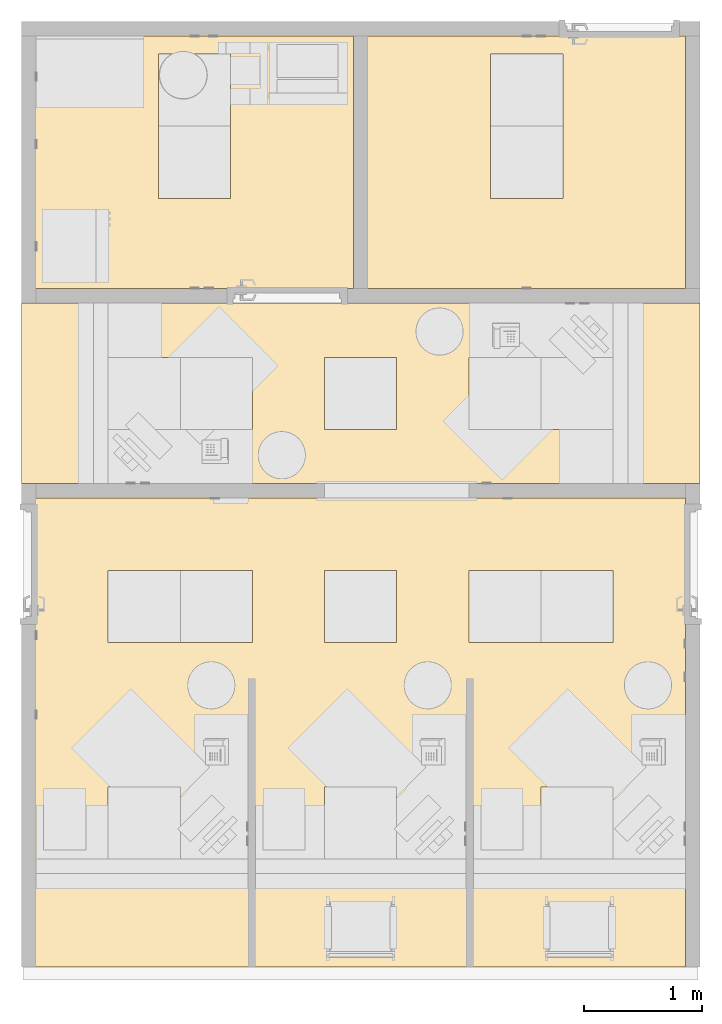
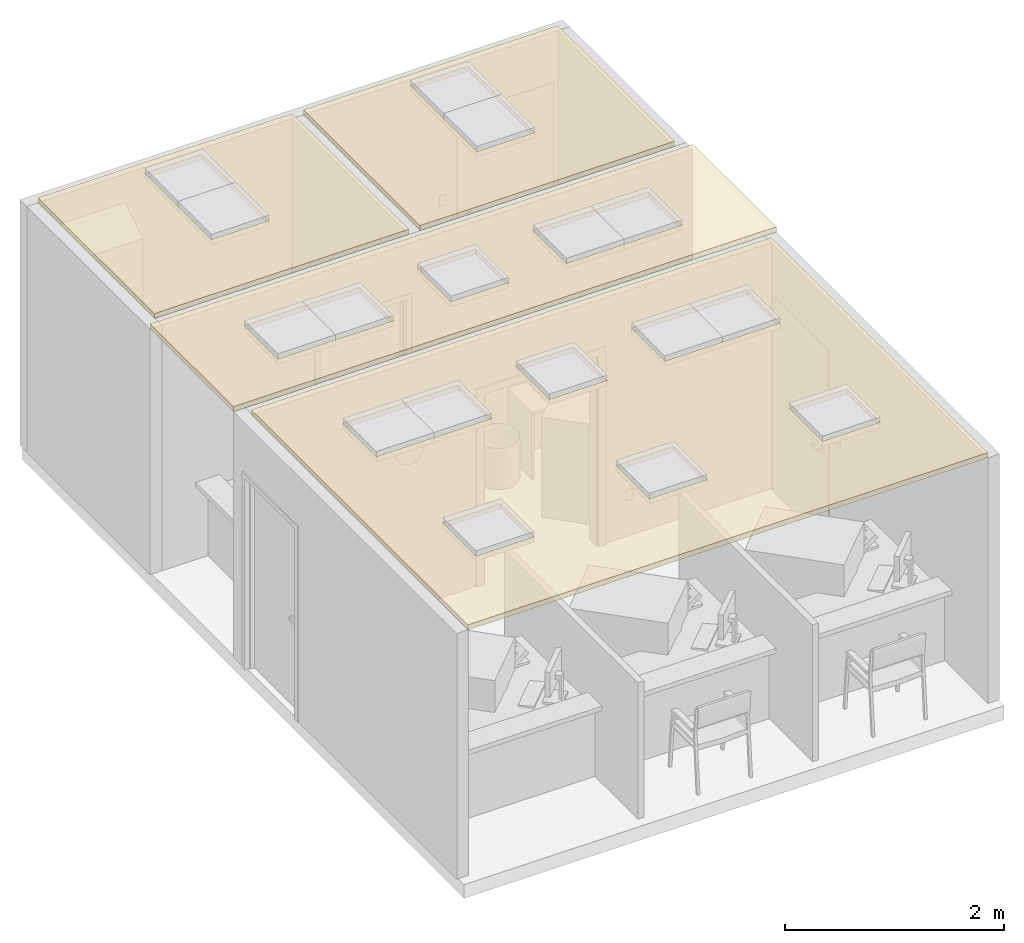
# One storey, part 5 of 20: 4 coverings.
"""IFC2X3 building model written with IfcOpenShell, lengths in feet."""

from ifc_helpers import new_model, entity, si_unit, converted_unit, derived_unit, direction, frame, origin, place, context, subcontext, project, spatial, polyline, outline, extrude, material, layer, layer_set, layer_usage, element, save


model = new_model("IFC2X3")

# Units and contexts
model_context = context("Model", 3, precision=0.0001, world=origin(), true_north=direction((6.12303176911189e-17, 1.0)))
body_context = subcontext(model_context, "Body", "Model", "MODEL_VIEW")
ifc_project = project(units=[converted_unit("LENGTHUNIT", "FOOT", entity("IfcRatioMeasure", 0.3048), si_unit("LENGTHUNIT", "METRE"), dimensions=[1, 0, 0, 0, 0, 0, 0]), converted_unit("AREAUNIT", "SQUARE FOOT", entity("IfcRatioMeasure", 0.09290304), si_unit("AREAUNIT", "SQUARE_METRE"), dimensions=[2, 0, 0, 0, 0, 0, 0]), converted_unit("VOLUMEUNIT", "CUBIC FOOT", entity("IfcRatioMeasure", 0.028316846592), si_unit("VOLUMEUNIT", "CUBIC_METRE"), dimensions=[3, 0, 0, 0, 0, 0, 0]), converted_unit("PLANEANGLEUNIT", "DEGREE", entity("IfcRatioMeasure", 0.0174532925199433), si_unit("PLANEANGLEUNIT", "RADIAN"), dimensions=[0, 0, 0, 0, 0, 0, 0]), si_unit("MASSUNIT", "GRAM", prefix="KILO"), derived_unit("MASSDENSITYUNIT", [(si_unit("MASSUNIT", "GRAM", prefix="KILO"), 1), (si_unit("LENGTHUNIT", "METRE"), -3)]), si_unit("TIMEUNIT", "SECOND"), si_unit("FREQUENCYUNIT", "HERTZ"), si_unit("THERMODYNAMICTEMPERATUREUNIT", "DEGREE_CELSIUS"), derived_unit("THERMALTRANSMITTANCEUNIT", [(si_unit("MASSUNIT", "GRAM", prefix="KILO"), 1), (si_unit("THERMODYNAMICTEMPERATUREUNIT", "KELVIN"), -1), (si_unit("TIMEUNIT", "SECOND"), -3)]), derived_unit("VOLUMETRICFLOWRATEUNIT", [(si_unit("LENGTHUNIT", "METRE"), 3), (si_unit("TIMEUNIT", "SECOND"), -1)]), si_unit("ELECTRICCURRENTUNIT", "AMPERE"), si_unit("ELECTRICVOLTAGEUNIT", "VOLT"), si_unit("POWERUNIT", "WATT"), si_unit("FORCEUNIT", "NEWTON"), si_unit("ILLUMINANCEUNIT", "LUX"), si_unit("LUMINOUSFLUXUNIT", "LUMEN"), si_unit("LUMINOUSINTENSITYUNIT", "CANDELA"), derived_unit("USERDEFINED", [(si_unit("MASSUNIT", "GRAM", prefix="KILO"), -1), (si_unit("LENGTHUNIT", "METRE"), -2), (si_unit("TIMEUNIT", "SECOND"), 3), (si_unit("LUMINOUSFLUXUNIT", "LUMEN"), 1)]), derived_unit("LINEARVELOCITYUNIT", [(si_unit("LENGTHUNIT", "METRE"), 1), (si_unit("TIMEUNIT", "SECOND"), -1)]), si_unit("PRESSUREUNIT", "PASCAL"), derived_unit("USERDEFINED", [(si_unit("LENGTHUNIT", "METRE"), -2), (si_unit("MASSUNIT", "GRAM", prefix="KILO"), 1), (si_unit("TIMEUNIT", "SECOND"), -2)])], contexts=[model_context])

# Site, building, storey
site_placement = place(None, origin())
site = spatial("IfcSite", under=ifc_project, at=site_placement, Name="Default", CompositionType="ELEMENT")
building_placement = place(site_placement, origin())
building = spatial("IfcBuilding", under=site, at=building_placement, Name="OUTPATIENT / PACT CLINIC (Ch. 265)", CompositionType="ELEMENT")
storey_placement = place(building_placement, origin())
storey = spatial("IfcBuildingStorey", under=building, at=storey_placement, Name="DATUM", CompositionType="ELEMENT", Elevation=0.0)

# Coverings
ifc_material_1 = material(Name="<Unnamed>")
ifc_layer_1 = layer(ifc_material_1, 0.135416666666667)
ifc_material_2 = material(Name="Acoustic Ceiling Tile 24 x 24")
ifc_layer_2 = layer(ifc_material_2, 0.0520833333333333)
ifc_layer_set = layer_set([ifc_layer_1, ifc_layer_2], Name="Compound Ceiling:2' x 2' ACT System")
ifc_layer_usage_1 = layer_usage(ifc_layer_set, "AXIS3", "POSITIVE", 0.0)
covering_1_placement = place(storey_placement, origin())
element("IfcCovering", 1, at=covering_1_placement, inside=storey, material=ifc_layer_usage_1, Name="Compound Ceiling:2' x 2' ACT System", ObjectType="Compound Ceiling:2' x 2' ACT System", PredefinedType="CEILING", context=body_context, shape_type="SweptSolid", body=[
    extrude(outline(polyline([(-6.49999999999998, -9.01227812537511), (6.50000000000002, -9.01227812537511), (6.49999999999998, 9.0122781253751), (-6.50000000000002, 9.01227812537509), (-6.49999999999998, -9.01227812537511)]), holes=[polyline([(-2.5, -2.98772187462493), (-2.49999999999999, -6.98772187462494), (-4.49999999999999, -6.98772187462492), (-4.49999999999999, -2.98772187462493), (-2.5, -2.98772187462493)]), polyline([(-2.50000000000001, 7.01227812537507), (-2.5, 3.01227812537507), (-4.50000000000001, 3.01227812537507), (-4.50000000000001, 7.01227812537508), (-2.50000000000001, 7.01227812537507)]), polyline([(1.49999999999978, -6.98772187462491), (1.49999999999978, -4.98772187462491), (3.49999999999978, -4.98772187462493), (3.49999999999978, -6.98772187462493), (1.49999999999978, -6.98772187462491)]), polyline([(1.5, -0.987721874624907), (1.5, 1.01227812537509), (3.5, 1.01227812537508), (3.5, -0.987721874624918), (1.5, -0.987721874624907)]), polyline([(1.49999999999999, 5.01227812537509), (1.49999999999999, 7.01227812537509), (3.49999999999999, 7.01227812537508), (3.49999999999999, 5.01227812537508), (1.49999999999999, 5.01227812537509)]), polyline([(-4.5, -0.987721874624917), (-4.5, 1.01227812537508), (-2.5, 1.01227812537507), (-2.5, -0.987721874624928), (-4.5, -0.987721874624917)])]), frame((65.2518353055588, -861.424839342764, 9.0), z_axis=(0.0, 0.0, 1.0), x_axis=(0.0, -1.0, 0.0)), (0.0, 0.0, 1.0), 0.1875),
])
ifc_layer_usage_2 = layer_usage(ifc_layer_set, "AXIS3", "POSITIVE", 0.0)
covering_2_placement = place(storey_placement, origin())
element("IfcCovering", 2, at=covering_2_placement, inside=storey, material=ifc_layer_usage_2, Name="Compound Ceiling:2' x 2' ACT System", ObjectType="Compound Ceiling:2' x 2' ACT System", PredefinedType="CEILING", context=body_context, shape_type="SweptSolid", body=[
    extrude(outline(polyline([(-2.49999999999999, -9.40625), (2.50000000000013, -9.40625), (2.5000000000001, 9.40625), (-2.50000000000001, 9.40625000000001), (-2.49999999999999, -9.40625)]), holes=[polyline([(1.0, -3.0), (1.0, -7.0), (-1.0, -7.0), (-1.0, -3.0), (1.0, -3.0)]), polyline([(1.0, 3.0), (-1.0, 3.0), (-1.0, 7.0), (1.0, 7.0), (1.0, 3.0)]), polyline([(-1.0, -1.0), (-1.0, 1.0), (1.0, 1.0), (1.0, -1.0), (-1.0, -1.0)])]), frame((65.2641134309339, -852.018589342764, 9.0), z_axis=(0.0, 0.0, 1.0), x_axis=(0.0, -1.0, 0.0)), (0.0, 0.0, 1.0), 0.1875),
])
ifc_layer_usage_3 = layer_usage(ifc_layer_set, "AXIS3", "POSITIVE", 0.0)
covering_3_placement = place(storey_placement, origin())
element("IfcCovering", 3, at=covering_3_placement, inside=storey, material=ifc_layer_usage_3, Name="Compound Ceiling:2' x 2' ACT System", ObjectType="Compound Ceiling:2' x 2' ACT System", PredefinedType="CEILING", context=body_context, shape_type="SweptSolid", body=[
    extrude(outline(polyline([(-3.50000000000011, -4.41071562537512), (3.5, -4.41071562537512), (3.5, 4.41071562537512), (-3.50000000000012, 4.41071562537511), (-3.50000000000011, -4.41071562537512)]), holes=[polyline([(-3.0, -0.987721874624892), (-3.0, 1.01227812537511), (1.0, 1.01227812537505), (1.0, -0.987721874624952), (-3.0, -0.987721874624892)])]), frame((60.6502728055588, -845.612339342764, 9.0), z_axis=(0.0, 0.0, 1.0), x_axis=(0.0, -1.0, 0.0)), (0.0, 0.0, 1.0), 0.1875),
])
ifc_layer_usage_4 = layer_usage(ifc_layer_set, "AXIS3", "POSITIVE", 0.0)
covering_4_placement = place(storey_placement, origin())
element("IfcCovering", 4, at=covering_4_placement, inside=storey, material=ifc_layer_usage_4, Name="Compound Ceiling:2' x 2' ACT System", ObjectType="Compound Ceiling:2' x 2' ACT System", PredefinedType="CEILING", context=body_context, shape_type="SweptSolid", body=[
    extrude(outline(polyline([(-3.5000000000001, -4.4107156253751), (3.50000000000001, -4.4107156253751), (3.49999999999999, 4.41071562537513), (-3.50000000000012, 4.41071562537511), (-3.5000000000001, -4.4107156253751)]), holes=[polyline([(-3.0, -0.987721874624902), (-3.0, 1.0122781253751), (1.0, 1.01227812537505), (1.0, -0.987721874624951), (-3.0, -0.987721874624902)])]), frame((69.8533978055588, -845.612339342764, 9.0), z_axis=(0.0, 0.0, 1.0), x_axis=(0.0, -1.0, 0.0)), (0.0, 0.0, 1.0), 0.1875),
])

save(model, "model.ifc")
